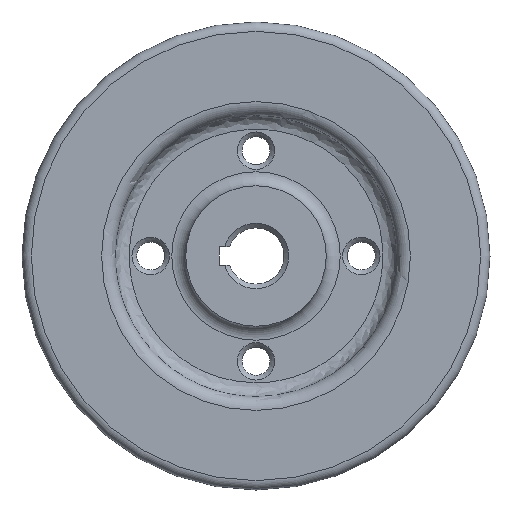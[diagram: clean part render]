
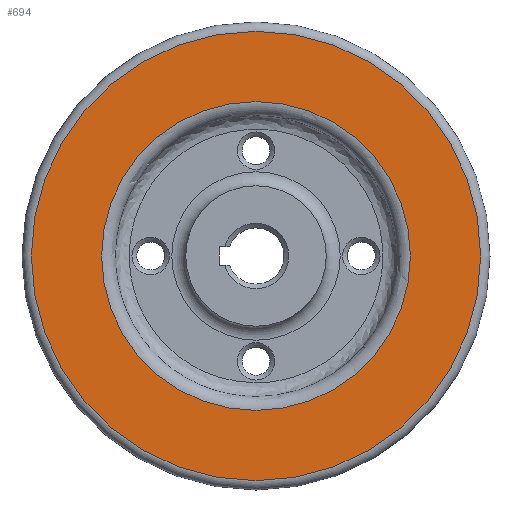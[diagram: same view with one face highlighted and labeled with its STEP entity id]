
A CAD part, left-side view. The second image highlights one B-rep face of the part: STEP entity #694.
In plain terms, the highlighted planar face has unit normal (-1, 0, 0).
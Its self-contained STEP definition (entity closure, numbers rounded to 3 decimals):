
#55=FACE_BOUND('',#195,.T.);
#121=PLANE('',#784);
#139=FACE_OUTER_BOUND('',#194,.T.);
#194=EDGE_LOOP('',(#538));
#195=EDGE_LOOP('',(#539));
#248=CIRCLE('',#782,33.);
#250=CIRCLE('',#785,48.);
#326=VERTEX_POINT('',#1734);
#327=VERTEX_POINT('',#1738);
#404=EDGE_CURVE('',#326,#326,#248,.T.);
#406=EDGE_CURVE('',#327,#327,#250,.T.);
#538=ORIENTED_EDGE('',*,*,#406,.F.);
#539=ORIENTED_EDGE('',*,*,#404,.F.);
#694=ADVANCED_FACE('',(#139,#55),#121,.T.);
#782=AXIS2_PLACEMENT_3D('',#1735,#938,#939);
#784=AXIS2_PLACEMENT_3D('',#1737,#942,#943);
#785=AXIS2_PLACEMENT_3D('',#1739,#944,#945);
#938=DIRECTION('center_axis',(-1.,0.,0.));
#939=DIRECTION('ref_axis',(0.,0.,1.));
#942=DIRECTION('center_axis',(-1.,0.,0.));
#943=DIRECTION('ref_axis',(0.,0.,1.));
#944=DIRECTION('center_axis',(1.,0.,0.));
#945=DIRECTION('ref_axis',(0.,-1.,0.));
#1734=CARTESIAN_POINT('',(-10.,0.,33.));
#1735=CARTESIAN_POINT('Origin',(-10.,0.,0.));
#1737=CARTESIAN_POINT('Origin',(-10.,25.,0.));
#1738=CARTESIAN_POINT('',(-10.,0.,48.));
#1739=CARTESIAN_POINT('Origin',(-10.,0.,0.));
